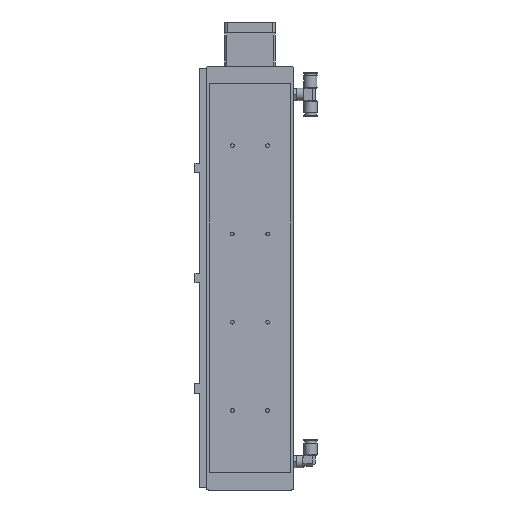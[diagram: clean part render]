
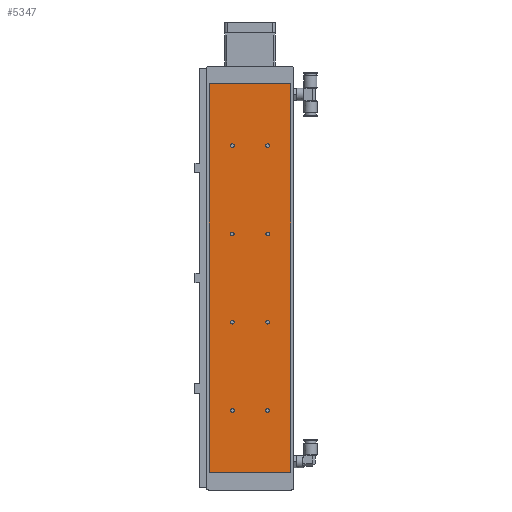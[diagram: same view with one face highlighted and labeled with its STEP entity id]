
A CAD part, front view. The second image highlights one B-rep face of the part: STEP entity #5347.
In plain terms, the highlighted planar face has unit normal (0, -1, 0).
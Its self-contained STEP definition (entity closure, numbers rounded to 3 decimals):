
#4419=CARTESIAN_POINT('',(-17.933,0.0,90.));
#4420=VERTEX_POINT('',#4419);
#4421=CARTESIAN_POINT('',(-20.,0.0,90.));
#4422=DIRECTION('',(0.0,1.0,0.0));
#4423=DIRECTION('',(1.0,0.0,0.0));
#4424=AXIS2_PLACEMENT_3D('',#4421,#4422,#4423);
#4425=CIRCLE('',#4424,2.067);
#4426=EDGE_CURVE('',#4420,#4420,#4425,.T.);
#4477=CARTESIAN_POINT('',(22.067,0.0,90.));
#4478=VERTEX_POINT('',#4477);
#4479=CARTESIAN_POINT('',(20.,0.0,90.));
#4480=DIRECTION('',(0.0,1.0,0.0));
#4481=DIRECTION('',(1.0,0.0,0.0));
#4482=AXIS2_PLACEMENT_3D('',#4479,#4480,#4481);
#4483=CIRCLE('',#4482,2.067);
#4484=EDGE_CURVE('',#4478,#4478,#4483,.T.);
#4535=CARTESIAN_POINT('',(-17.933,0.0,390.0));
#4536=VERTEX_POINT('',#4535);
#4537=CARTESIAN_POINT('',(-20.,0.0,390.0));
#4538=DIRECTION('',(0.0,1.0,0.0));
#4539=DIRECTION('',(1.0,0.0,0.0));
#4540=AXIS2_PLACEMENT_3D('',#4537,#4538,#4539);
#4541=CIRCLE('',#4540,2.067);
#4542=EDGE_CURVE('',#4536,#4536,#4541,.T.);
#4593=CARTESIAN_POINT('',(22.067,0.0,390.0));
#4594=VERTEX_POINT('',#4593);
#4595=CARTESIAN_POINT('',(20.,0.0,390.0));
#4596=DIRECTION('',(0.0,1.0,0.0));
#4597=DIRECTION('',(1.0,0.0,0.0));
#4598=AXIS2_PLACEMENT_3D('',#4595,#4596,#4597);
#4599=CIRCLE('',#4598,2.067);
#4600=EDGE_CURVE('',#4594,#4594,#4599,.T.);
#4651=CARTESIAN_POINT('',(-17.933,0.0,290.0));
#4652=VERTEX_POINT('',#4651);
#4653=CARTESIAN_POINT('',(-20.,0.0,290.0));
#4654=DIRECTION('',(0.0,1.0,0.0));
#4655=DIRECTION('',(1.0,0.0,0.0));
#4656=AXIS2_PLACEMENT_3D('',#4653,#4654,#4655);
#4657=CIRCLE('',#4656,2.067);
#4658=EDGE_CURVE('',#4652,#4652,#4657,.T.);
#4709=CARTESIAN_POINT('',(-17.933,0.0,190.0));
#4710=VERTEX_POINT('',#4709);
#4711=CARTESIAN_POINT('',(-20.,0.0,190.0));
#4712=DIRECTION('',(0.0,1.0,0.0));
#4713=DIRECTION('',(1.0,0.0,0.0));
#4714=AXIS2_PLACEMENT_3D('',#4711,#4712,#4713);
#4715=CIRCLE('',#4714,2.067);
#4716=EDGE_CURVE('',#4710,#4710,#4715,.T.);
#4767=CARTESIAN_POINT('',(22.067,0.0,190.0));
#4768=VERTEX_POINT('',#4767);
#4769=CARTESIAN_POINT('',(20.,0.0,190.0));
#4770=DIRECTION('',(0.0,1.0,0.0));
#4771=DIRECTION('',(1.0,0.0,0.0));
#4772=AXIS2_PLACEMENT_3D('',#4769,#4770,#4771);
#4773=CIRCLE('',#4772,2.067);
#4774=EDGE_CURVE('',#4768,#4768,#4773,.T.);
#4825=CARTESIAN_POINT('',(22.067,0.0,290.0));
#4826=VERTEX_POINT('',#4825);
#4827=CARTESIAN_POINT('',(20.,0.0,290.0));
#4828=DIRECTION('',(0.0,1.0,0.0));
#4829=DIRECTION('',(1.0,0.0,0.0));
#4830=AXIS2_PLACEMENT_3D('',#4827,#4828,#4829);
#4831=CIRCLE('',#4830,2.067);
#4832=EDGE_CURVE('',#4826,#4826,#4831,.T.);
#5234=CARTESIAN_POINT('',(46.,0.0,20.));
#5235=VERTEX_POINT('',#5234);
#5242=CARTESIAN_POINT('',(-46.,0.0,20.));
#5243=VERTEX_POINT('',#5242);
#5244=CARTESIAN_POINT('',(-46.,0.0,20.));
#5245=DIRECTION('',(1.0,0.0,0.0));
#5246=VECTOR('',#5245,92.);
#5247=LINE('',#5244,#5246);
#5248=EDGE_CURVE('',#5243,#5235,#5247,.T.);
#5265=CARTESIAN_POINT('',(-46.,0.0,460.0));
#5266=VERTEX_POINT('',#5265);
#5273=CARTESIAN_POINT('',(46.,0.0,460.0));
#5274=VERTEX_POINT('',#5273);
#5275=CARTESIAN_POINT('',(46.,0.0,460.0));
#5276=DIRECTION('',(-1.0,0.0,0.0));
#5277=VECTOR('',#5276,92.);
#5278=LINE('',#5275,#5277);
#5279=EDGE_CURVE('',#5274,#5266,#5278,.T.);
#5296=CARTESIAN_POINT('',(-46.,0.0,20.));
#5297=DIRECTION('',(0.0,0.0,1.0));
#5298=VECTOR('',#5297,440.0);
#5299=LINE('',#5296,#5298);
#5300=EDGE_CURVE('',#5243,#5266,#5299,.T.);
#5307=CARTESIAN_POINT('',(46.,0.0,0.0));
#5308=DIRECTION('',(0.0,-1.0,0.0));
#5309=DIRECTION('',(0.0,0.0,-1.0));
#5310=AXIS2_PLACEMENT_3D('',#5307,#5308,#5309);
#5311=PLANE('',#5310);
#5312=ORIENTED_EDGE('',*,*,#5248,.T.);
#5313=CARTESIAN_POINT('',(46.,0.0,20.));
#5314=DIRECTION('',(0.0,0.0,1.0));
#5315=VECTOR('',#5314,440.0);
#5316=LINE('',#5313,#5315);
#5317=EDGE_CURVE('',#5235,#5274,#5316,.T.);
#5318=ORIENTED_EDGE('',*,*,#5317,.T.);
#5319=ORIENTED_EDGE('',*,*,#5279,.T.);
#5320=ORIENTED_EDGE('',*,*,#5300,.F.);
#5321=EDGE_LOOP('',(#5312,#5318,#5319,#5320));
#5322=FACE_OUTER_BOUND('',#5321,.T.);
#5323=ORIENTED_EDGE('',*,*,#4426,.T.);
#5324=EDGE_LOOP('',(#5323));
#5325=FACE_BOUND('',#5324,.T.);
#5326=ORIENTED_EDGE('',*,*,#4484,.T.);
#5327=EDGE_LOOP('',(#5326));
#5328=FACE_BOUND('',#5327,.T.);
#5329=ORIENTED_EDGE('',*,*,#4542,.T.);
#5330=EDGE_LOOP('',(#5329));
#5331=FACE_BOUND('',#5330,.T.);
#5332=ORIENTED_EDGE('',*,*,#4600,.T.);
#5333=EDGE_LOOP('',(#5332));
#5334=FACE_BOUND('',#5333,.T.);
#5335=ORIENTED_EDGE('',*,*,#4658,.T.);
#5336=EDGE_LOOP('',(#5335));
#5337=FACE_BOUND('',#5336,.T.);
#5338=ORIENTED_EDGE('',*,*,#4716,.T.);
#5339=EDGE_LOOP('',(#5338));
#5340=FACE_BOUND('',#5339,.T.);
#5341=ORIENTED_EDGE('',*,*,#4774,.T.);
#5342=EDGE_LOOP('',(#5341));
#5343=FACE_BOUND('',#5342,.T.);
#5344=ORIENTED_EDGE('',*,*,#4832,.T.);
#5345=EDGE_LOOP('',(#5344));
#5346=FACE_BOUND('',#5345,.T.);
#5347=ADVANCED_FACE('',(#5322,#5325,#5328,#5331,#5334,#5337,#5340,#5343,#5346),#5311,.T.);
